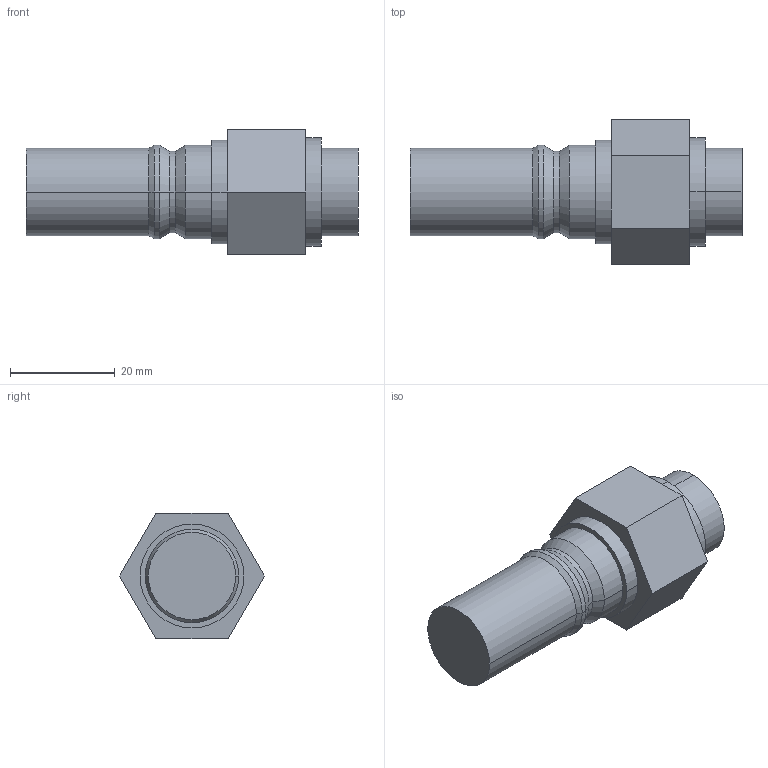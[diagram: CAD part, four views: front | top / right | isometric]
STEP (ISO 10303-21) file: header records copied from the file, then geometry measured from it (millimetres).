
FILE_DESCRIPTION (( 'STEP AP214' ), '1' );
FILE_NAME ('BR601.12 RRB 17.STEP', '2020-12-02T14:10:58', ( '' ), ( '' ), 'SwSTEP 2.0', 'SolidWorks 2018', '' );
FILE_SCHEMA (( 'AUTOMOTIVE_DESIGN' ));
Length unit declared in the file: millimetre
Products named in the file (1): BR601.12 RRB 17
Bounding box: 63.5 x 27.71 x 24 mm (x, y, z)
Volume: 18905.8 mm3; surface area: 4886.2 mm2
Topology: 1 solids, 1 shells, 32 faces, 66 edges, 40 vertices
Faces by surface type: cylinder 14, plane 12, cone 6
Entity records: 876 total; most frequent: DIRECTION 160, CARTESIAN_POINT 139, ORIENTED_EDGE 132, EDGE_CURVE 66, AXIS2_PLACEMENT_3D 61, VERTEX_POINT 40, LINE 38, VECTOR 38
